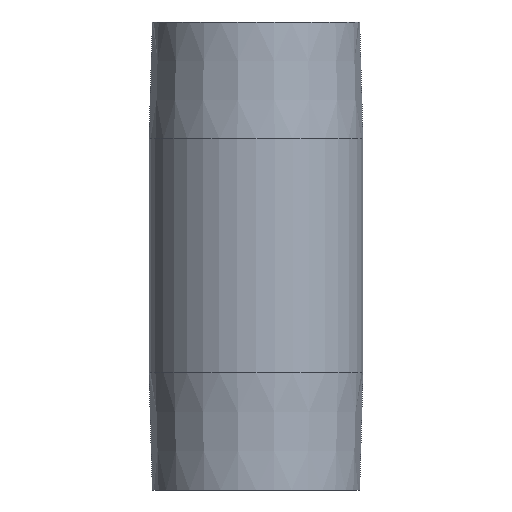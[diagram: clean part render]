
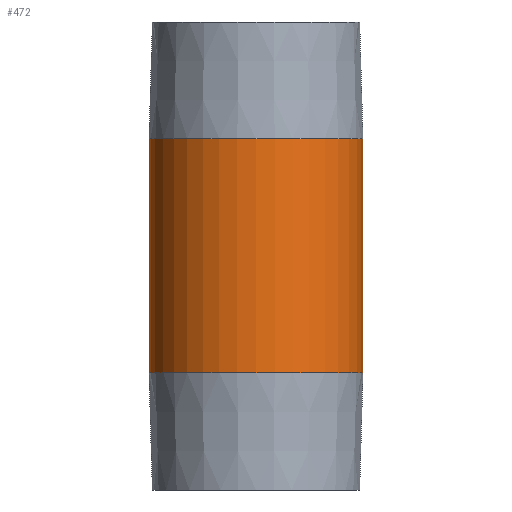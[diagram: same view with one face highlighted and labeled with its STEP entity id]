
A CAD part, front view. The second image highlights one B-rep face of the part: STEP entity #472.
In plain terms, the highlighted cylindrical face has radius 16 mm (diameter 32 mm), a partial arc.
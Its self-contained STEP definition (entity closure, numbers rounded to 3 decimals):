
#2 = VECTOR ( 'NONE', #426, 1000. ) ;
#16 = VERTEX_POINT ( 'NONE', #240 ) ;
#28 = VECTOR ( 'NONE', #346, 1000. ) ;
#41 = CARTESIAN_POINT ( 'NONE',  ( 16., 0., 35. ) ) ;
#70 = CARTESIAN_POINT ( 'NONE',  ( -16., 0., 17.5 ) ) ;
#80 = DIRECTION ( 'NONE',  ( 0., 0., 1. ) ) ;
#87 = AXIS2_PLACEMENT_3D ( 'NONE', #467, #354, #143 ) ;
#93 = CIRCLE ( 'NONE', #87, 16. ) ;
#94 = ORIENTED_EDGE ( 'NONE', *, *, #186, .F. ) ;
#98 = EDGE_CURVE ( 'NONE', #177, #135, #310, .T. ) ;
#112 = DIRECTION ( 'NONE',  ( -1., 0., 0. ) ) ;
#118 = DIRECTION ( 'NONE',  ( 0., 0., -1. ) ) ;
#135 = VERTEX_POINT ( 'NONE', #384 ) ;
#143 = DIRECTION ( 'NONE',  ( 1., 0., 0. ) ) ;
#156 = CARTESIAN_POINT ( 'NONE',  ( 0., 0., -17.5 ) ) ;
#161 = ORIENTED_EDGE ( 'NONE', *, *, #163, .F. ) ;
#163 = EDGE_CURVE ( 'NONE', #177, #456, #93, .T. ) ;
#169 = ORIENTED_EDGE ( 'NONE', *, *, #461, .T. ) ;
#173 = CIRCLE ( 'NONE', #253, 16. ) ;
#176 = CARTESIAN_POINT ( 'NONE',  ( -16., 0., 35. ) ) ;
#177 = VERTEX_POINT ( 'NONE', #70 ) ;
#186 = EDGE_CURVE ( 'NONE', #456, #16, #188, .T. ) ;
#188 = LINE ( 'NONE', #41, #2 ) ;
#219 = CARTESIAN_POINT ( 'NONE',  ( 0., 0., 35. ) ) ;
#240 = CARTESIAN_POINT ( 'NONE',  ( 16., 0., -17.5 ) ) ;
#243 = AXIS2_PLACEMENT_3D ( 'NONE', #219, #118, #112 ) ;
#253 = AXIS2_PLACEMENT_3D ( 'NONE', #156, #80, #398 ) ;
#265 = FACE_OUTER_BOUND ( 'NONE', #344, .T. ) ;
#310 = LINE ( 'NONE', #176, #28 ) ;
#344 = EDGE_LOOP ( 'NONE', ( #94, #161, #433, #169 ) ) ;
#346 = DIRECTION ( 'NONE',  ( 0., 0., -1. ) ) ;
#354 = DIRECTION ( 'NONE',  ( 0., 0., 1. ) ) ;
#362 = CARTESIAN_POINT ( 'NONE',  ( 16., 0., 17.5 ) ) ;
#384 = CARTESIAN_POINT ( 'NONE',  ( -16., 0., -17.5 ) ) ;
#398 = DIRECTION ( 'NONE',  ( 1., 0., 0. ) ) ;
#414 = CYLINDRICAL_SURFACE ( 'NONE', #243, 16. ) ;
#426 = DIRECTION ( 'NONE',  ( 0., 0., -1. ) ) ;
#433 = ORIENTED_EDGE ( 'NONE', *, *, #98, .T. ) ;
#456 = VERTEX_POINT ( 'NONE', #362 ) ;
#461 = EDGE_CURVE ( 'NONE', #135, #16, #173, .T. ) ;
#467 = CARTESIAN_POINT ( 'NONE',  ( 0., 0., 17.5 ) ) ;
#472 = ADVANCED_FACE ( 'NONE', ( #265 ), #414, .T. ) ;
